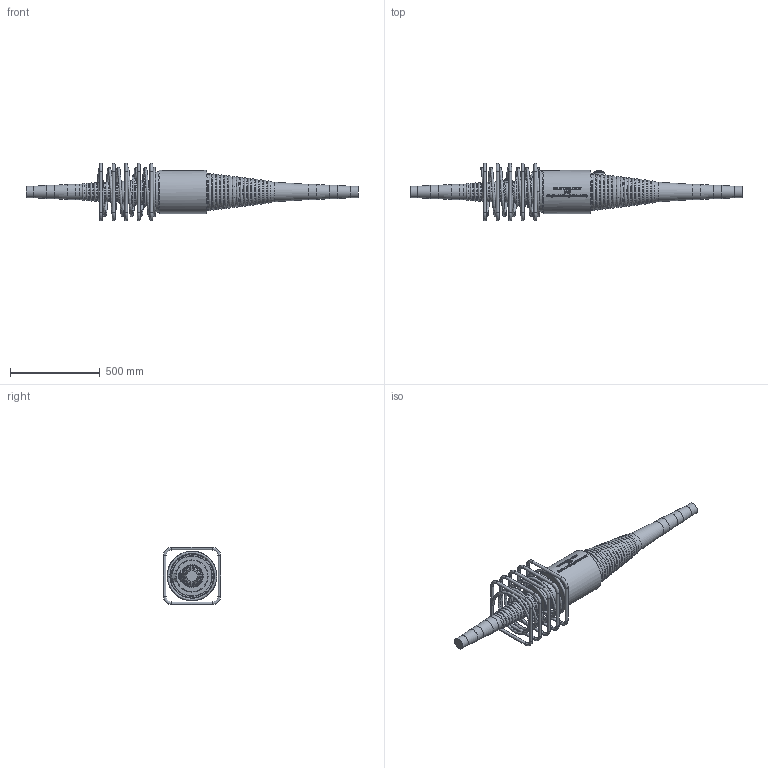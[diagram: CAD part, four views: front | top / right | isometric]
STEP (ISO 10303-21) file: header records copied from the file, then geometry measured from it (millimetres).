
FILE_DESCRIPTION(/* description */ (''),/* implementation_level */ '2;1');
FILE_NAME(/* name */ 'Z:\04 Publications\05 Give-out\BBR\6_3D_Models\BBR VT CONA CMI\BBR VT CONA CMI BT\01206\BBR VT CONA CMI BT 1206_Coupler H Assembly_CS-34,28.stp',/* time_stamp */ '2017-05-05T08:30:21+02:00',/* author */ ('IP'),/* organization */ (''),/* preprocessor_version */ 'ST-DEVELOPER v16.1',/* originating_system */ 'Autodesk Inventor 2016',/* authorisation */ '');
FILE_SCHEMA (('AUTOMOTIVE_DESIGN { 1 0 10303 214 3 1 1 }'));
Products named in the file (1): BBR VT CONA CMI BT 1206_Coupler H Assembly_CS-34,28
Bounding box: 1844.56 x 320 x 320 mm (x, y, z)
Volume: 31252080.4 mm3; surface area: 1409237.7 mm2
Topology: 7 solids, 7 shells, 981 faces, 2475 edges, 1566 vertices
Faces by surface type: bspline 414, plane 270, torus 130, cylinder 109, cone 34, sphere 24
Full cylindrical faces by diameter (mm): 16 x20, 34 x2, 57 x2, 64 x1, 64.013 x1, 74 x1, 74.013 x1, 84 x1, 84.013 x1, 177.282 x1, 178.841 x1, 240 x1
Entity records: 42092 total; most frequent: CARTESIAN_POINT 21373, ORIENTED_EDGE 4582, DIRECTION 3140, EDGE_CURVE 2291, VERTEX_POINT 1556, EDGE_LOOP 1225, AXIS2_PLACEMENT_3D 1112, FACE_OUTER_BOUND 981
